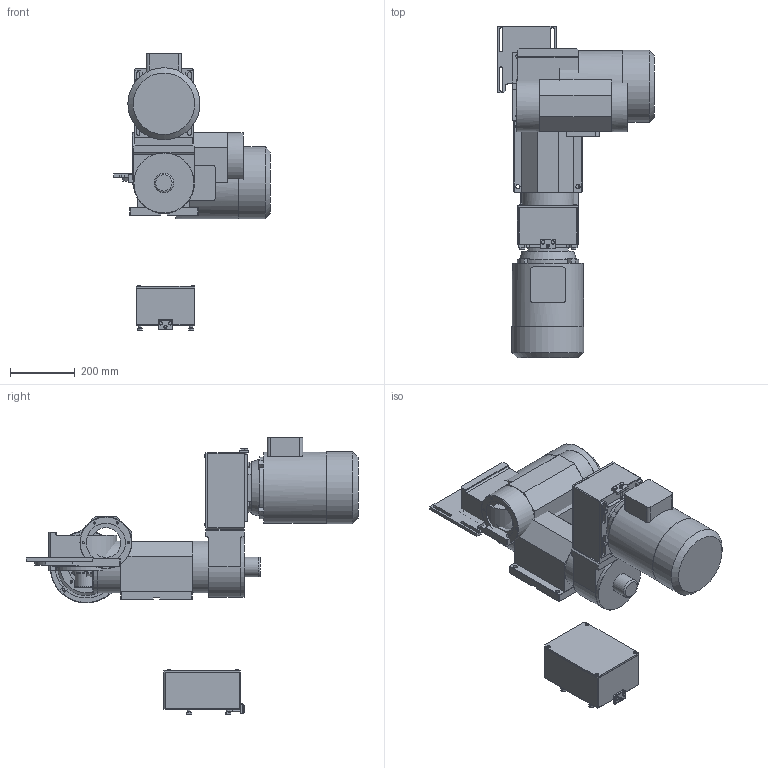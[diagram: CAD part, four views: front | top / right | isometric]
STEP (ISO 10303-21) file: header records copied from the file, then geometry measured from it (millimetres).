
FILE_DESCRIPTION( ( 'STEP AP203' ), '1' );
FILE_NAME( 'C:/Documents and Settings/Saverio/Desktop/disegni ironcad/MANDRINI FISSI/MF40/MF 40_P.stp', '2014-03-25T15:06:18', ( ' ' ), ( ' ' ), 'XStep 1.0', ' ', ' ' );
FILE_SCHEMA( ( 'CONFIG_CONTROL_DESIGN' ) );
Length unit declared in the file: metre
Products named in the file (34): Assem1; 1; 2; 3; 4; 5; 6; 7; 8; 9; 10; 11; 12; 13; 14; 15; 16; 17; 18; 19; 20; 21; 22; 23; 24; 25; 26; 27; 28; 29; 30; 31; 32; 33
Bounding box: 483 x 1023.06 x 853.67 mm (x, y, z)
Volume: 57865209.4 mm3; surface area: 2929303.5 mm2
Topology: 66 solids, 66 shells, 1474 faces, 3252 edges, 2032 vertices
Faces by surface type: plane 930, cone 266, cylinder 248, torus 18, bspline 12
Full cylindrical faces by diameter (mm): 5 x10, 6 x18, 6.5 x6, 6.637 x8, 6.647 x8, 6.75 x12, 8 x12, 8.366 x2, 8.5 x20, 9.87 x6, 10 x8, 10.25 x8, 10.5 x4, 13 x20, 13.5 x12, 28 x2, 36.4 x2, 60 x2, 70 x2, 88 x2, 88.882 x2, 89.4 x2, 92 x2, 94.7 x2, 110 x2, 120 x2, 160 x6, 164 x2, 186 x2, 219.78 x2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
Entity records: 20558 total; most frequent: CARTESIAN_POINT 3926, DIRECTION 3184, ORIENTED_EDGE 2698, EDGE_CURVE 1349, AXIS2_PLACEMENT_3D 1173, EDGE_LOOP 1036, VERTEX_POINT 961, FACE_OUTER_BOUND 842
